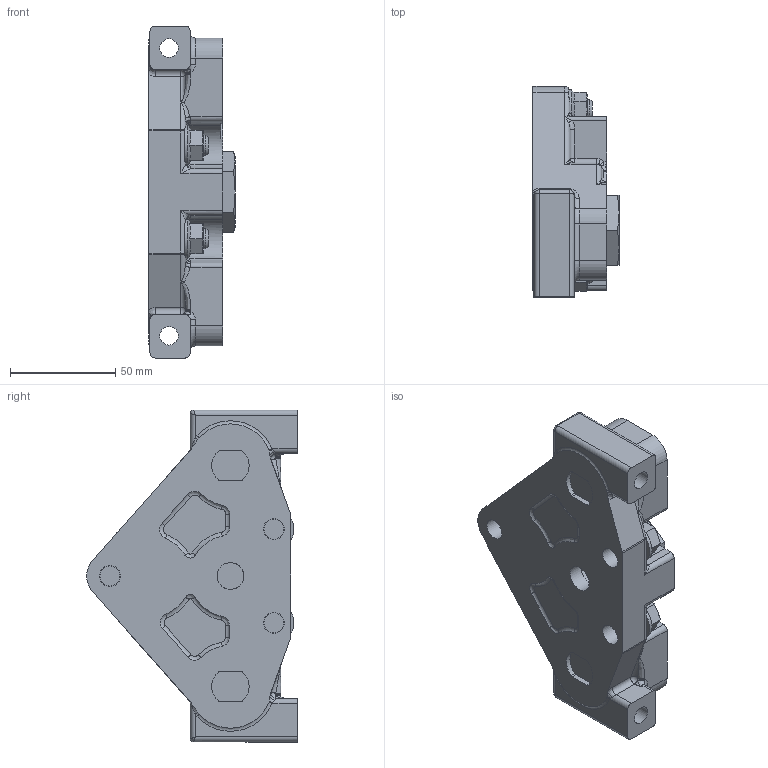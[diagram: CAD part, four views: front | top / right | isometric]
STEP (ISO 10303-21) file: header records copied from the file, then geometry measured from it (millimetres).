
FILE_DESCRIPTION((''),'2;1');
FILE_NAME('C:\Vault\Workspace\z_ShellModels\S20\20E21_Shell.stp','2012-03-20T07:55:37',('PetersW'),(''),'Autodesk Inventor 2012','Autodesk Inventor 2012','');
FILE_SCHEMA(('AUTOMOTIVE_DESIGN { 1 0 10303 214 1 1 1 1 }'));
Length unit declared in the file: inch
Products named in the file (1): Part1
Bounding box: 40.89 x 99.96 x 157.48 mm (x, y, z)
Volume: 284831.7 mm3; surface area: 49620 mm2
Topology: 1 solids, 1 shells, 469 faces, 1193 edges, 741 vertices
Faces by surface type: plane 170, cylinder 120, bspline 110, cone 36, torus 24, sphere 9
Full cylindrical faces by diameter (mm): 8.738 x2, 9.525 x6, 9.931 x3, 12.7 x1, 13.462 x3, 19.05 x3, 24.917 x1, 27.178 x1, 28.092 x1
Entity records: 16359 total; most frequent: CARTESIAN_POINT 5425, ORIENTED_EDGE 2276, DIRECTION 1991, EDGE_CURVE 1138, AXIS2_PLACEMENT_3D 758, VERTEX_POINT 733, EDGE_LOOP 535, VECTOR 475
